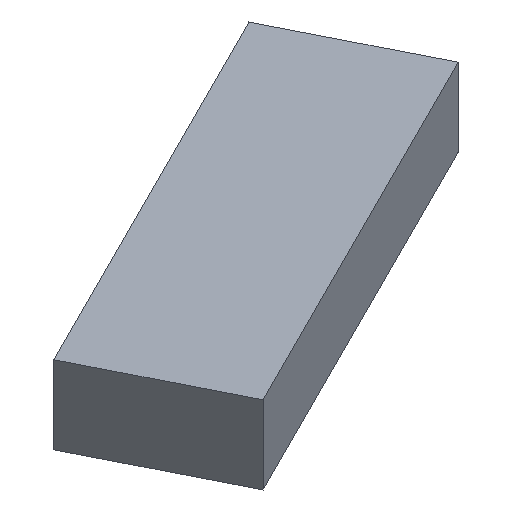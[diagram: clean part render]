
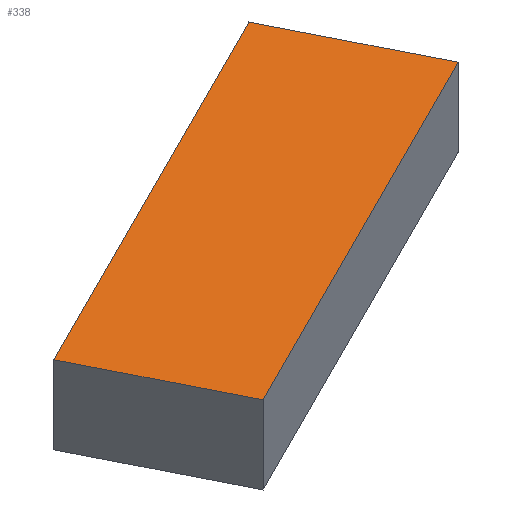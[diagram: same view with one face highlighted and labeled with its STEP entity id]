
A CAD part, isometric view. The second image highlights one B-rep face of the part: STEP entity #338.
In plain terms, the highlighted planar face has unit normal (0, 0, 1).
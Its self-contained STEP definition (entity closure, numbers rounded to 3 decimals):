
#24 = VERTEX_POINT('',#25);
#25 = CARTESIAN_POINT('',(-471.789,-228.336,34.));
#32 = PLANE('',#33);
#33 = AXIS2_PLACEMENT_3D('',#34,#35,#36);
#34 = CARTESIAN_POINT('',(-471.789,-228.336,30.));
#35 = DIRECTION('',(-0.447,0.894,0.));
#36 = DIRECTION('',(0.894,0.447,0.));
#44 = PLANE('',#45);
#45 = AXIS2_PLACEMENT_3D('',#46,#47,#48);
#46 = CARTESIAN_POINT('',(-468.211,-235.491,30.));
#47 = DIRECTION('',(-0.894,-0.447,0.));
#48 = DIRECTION('',(-0.447,0.894,0.));
#56 = EDGE_CURVE('',#24,#57,#59,.T.);
#57 = VERTEX_POINT('',#58);
#58 = CARTESIAN_POINT('',(-451.789,-218.336,34.));
#59 = SURFACE_CURVE('',#60,(#64,#71),.PCURVE_S1.);
#60 = LINE('',#61,#62);
#61 = CARTESIAN_POINT('',(-471.789,-228.336,34.));
#62 = VECTOR('',#63,1.);
#63 = DIRECTION('',(0.894,0.447,0.));
#64 = PCURVE('',#32,#65);
#65 = DEFINITIONAL_REPRESENTATION('',(#66),#70);
#66 = LINE('',#67,#68);
#67 = CARTESIAN_POINT('',(0.,-4.));
#68 = VECTOR('',#69,1.);
#69 = DIRECTION('',(1.,0.));
#70 = ( GEOMETRIC_REPRESENTATION_CONTEXT(2) 
PARAMETRIC_REPRESENTATION_CONTEXT() REPRESENTATION_CONTEXT('2D SPACE',''
  ) );
#71 = PCURVE('',#72,#77);
#72 = PLANE('',#73);
#73 = AXIS2_PLACEMENT_3D('',#74,#75,#76);
#74 = CARTESIAN_POINT('',(-460.,-226.913,34.));
#75 = DIRECTION('',(-0.,-0.,-1.));
#76 = DIRECTION('',(-1.,0.,0.));
#77 = DEFINITIONAL_REPRESENTATION('',(#78),#82);
#78 = LINE('',#79,#80);
#79 = CARTESIAN_POINT('',(11.789,-1.422));
#80 = VECTOR('',#81,1.);
#81 = DIRECTION('',(-0.894,0.447));
#82 = ( GEOMETRIC_REPRESENTATION_CONTEXT(2) 
PARAMETRIC_REPRESENTATION_CONTEXT() REPRESENTATION_CONTEXT('2D SPACE',''
  ) );
#100 = PLANE('',#101);
#101 = AXIS2_PLACEMENT_3D('',#102,#103,#104);
#102 = CARTESIAN_POINT('',(-451.789,-218.336,30.));
#103 = DIRECTION('',(0.894,0.447,-0.));
#104 = DIRECTION('',(0.447,-0.894,0.));
#142 = EDGE_CURVE('',#57,#143,#145,.T.);
#143 = VERTEX_POINT('',#144);
#144 = CARTESIAN_POINT('',(-448.211,-225.491,34.));
#145 = SURFACE_CURVE('',#146,(#150,#157),.PCURVE_S1.);
#146 = LINE('',#147,#148);
#147 = CARTESIAN_POINT('',(-451.789,-218.336,34.));
#148 = VECTOR('',#149,1.);
#149 = DIRECTION('',(0.447,-0.894,0.));
#150 = PCURVE('',#100,#151);
#151 = DEFINITIONAL_REPRESENTATION('',(#152),#156);
#152 = LINE('',#153,#154);
#153 = CARTESIAN_POINT('',(0.,-4.));
#154 = VECTOR('',#155,1.);
#155 = DIRECTION('',(1.,0.));
#156 = ( GEOMETRIC_REPRESENTATION_CONTEXT(2) 
PARAMETRIC_REPRESENTATION_CONTEXT() REPRESENTATION_CONTEXT('2D SPACE',''
  ) );
#157 = PCURVE('',#72,#158);
#158 = DEFINITIONAL_REPRESENTATION('',(#159),#163);
#159 = LINE('',#160,#161);
#160 = CARTESIAN_POINT('',(-8.211,8.578));
#161 = VECTOR('',#162,1.);
#162 = DIRECTION('',(-0.447,-0.894));
#163 = ( GEOMETRIC_REPRESENTATION_CONTEXT(2) 
PARAMETRIC_REPRESENTATION_CONTEXT() REPRESENTATION_CONTEXT('2D SPACE',''
  ) );
#181 = PLANE('',#182);
#182 = AXIS2_PLACEMENT_3D('',#183,#184,#185);
#183 = CARTESIAN_POINT('',(-448.211,-225.491,30.));
#184 = DIRECTION('',(0.447,-0.894,0.));
#185 = DIRECTION('',(-0.894,-0.447,0.));
#218 = EDGE_CURVE('',#143,#219,#221,.T.);
#219 = VERTEX_POINT('',#220);
#220 = CARTESIAN_POINT('',(-468.211,-235.491,34.));
#221 = SURFACE_CURVE('',#222,(#226,#233),.PCURVE_S1.);
#222 = LINE('',#223,#224);
#223 = CARTESIAN_POINT('',(-448.211,-225.491,34.));
#224 = VECTOR('',#225,1.);
#225 = DIRECTION('',(-0.894,-0.447,0.));
#226 = PCURVE('',#181,#227);
#227 = DEFINITIONAL_REPRESENTATION('',(#228),#232);
#228 = LINE('',#229,#230);
#229 = CARTESIAN_POINT('',(0.,-4.));
#230 = VECTOR('',#231,1.);
#231 = DIRECTION('',(1.,0.));
#232 = ( GEOMETRIC_REPRESENTATION_CONTEXT(2) 
PARAMETRIC_REPRESENTATION_CONTEXT() REPRESENTATION_CONTEXT('2D SPACE',''
  ) );
#233 = PCURVE('',#72,#234);
#234 = DEFINITIONAL_REPRESENTATION('',(#235),#239);
#235 = LINE('',#236,#237);
#236 = CARTESIAN_POINT('',(-11.789,1.422));
#237 = VECTOR('',#238,1.);
#238 = DIRECTION('',(0.894,-0.447));
#239 = ( GEOMETRIC_REPRESENTATION_CONTEXT(2) 
PARAMETRIC_REPRESENTATION_CONTEXT() REPRESENTATION_CONTEXT('2D SPACE',''
  ) );
#289 = EDGE_CURVE('',#219,#24,#290,.T.);
#290 = SURFACE_CURVE('',#291,(#295,#302),.PCURVE_S1.);
#291 = LINE('',#292,#293);
#292 = CARTESIAN_POINT('',(-468.211,-235.491,34.));
#293 = VECTOR('',#294,1.);
#294 = DIRECTION('',(-0.447,0.894,0.));
#295 = PCURVE('',#44,#296);
#296 = DEFINITIONAL_REPRESENTATION('',(#297),#301);
#297 = LINE('',#298,#299);
#298 = CARTESIAN_POINT('',(0.,-4.));
#299 = VECTOR('',#300,1.);
#300 = DIRECTION('',(1.,0.));
#301 = ( GEOMETRIC_REPRESENTATION_CONTEXT(2) 
PARAMETRIC_REPRESENTATION_CONTEXT() REPRESENTATION_CONTEXT('2D SPACE',''
  ) );
#302 = PCURVE('',#72,#303);
#303 = DEFINITIONAL_REPRESENTATION('',(#304),#308);
#304 = LINE('',#305,#306);
#305 = CARTESIAN_POINT('',(8.211,-8.578));
#306 = VECTOR('',#307,1.);
#307 = DIRECTION('',(0.447,0.894));
#308 = ( GEOMETRIC_REPRESENTATION_CONTEXT(2) 
PARAMETRIC_REPRESENTATION_CONTEXT() REPRESENTATION_CONTEXT('2D SPACE',''
  ) );
#338 = ADVANCED_FACE('',(#339),#72,.F.);
#339 = FACE_BOUND('',#340,.F.);
#340 = EDGE_LOOP('',(#341,#342,#343,#344));
#341 = ORIENTED_EDGE('',*,*,#56,.T.);
#342 = ORIENTED_EDGE('',*,*,#142,.T.);
#343 = ORIENTED_EDGE('',*,*,#218,.T.);
#344 = ORIENTED_EDGE('',*,*,#289,.T.);
